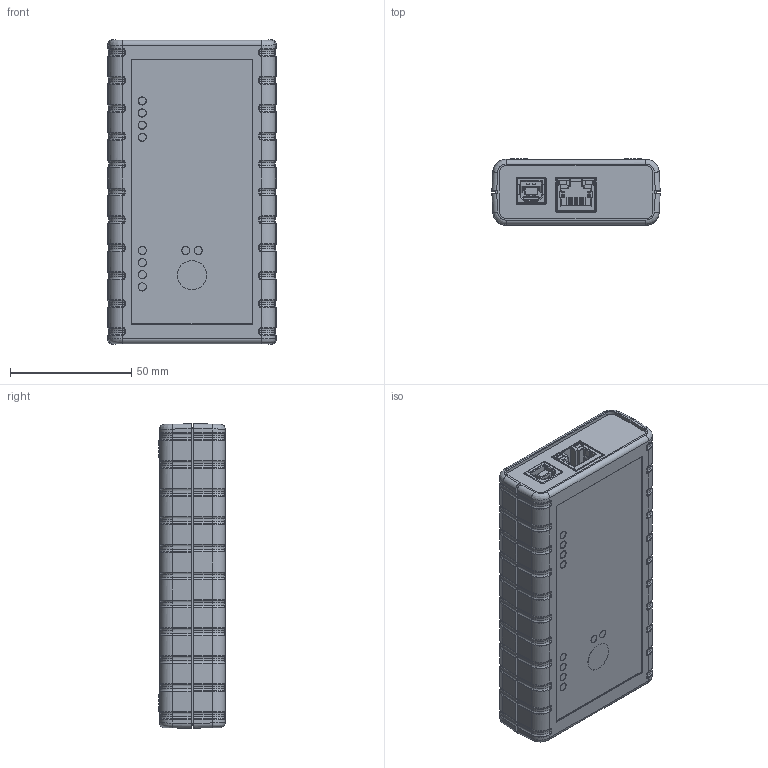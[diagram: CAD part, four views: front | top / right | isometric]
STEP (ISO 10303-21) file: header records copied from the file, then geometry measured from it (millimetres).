
FILE_DESCRIPTION (( 'STEP AP214' ), '1' );
FILE_NAME ('JLinkProPoE_Assembly_WEB.STEP', '2026-02-19T08:56:04', ( '' ), ( '' ), 'SwSTEP 2.0', 'SolidWorks 2020', '' );
FILE_SCHEMA (( 'AUTOMOTIVE_DESIGN' ));
Length unit declared in the file: millimetre
Products named in the file (1): JLinkProPoE_Assembly_WEB
Bounding box: 69.36 x 27.3 x 125.5 mm (x, y, z)
Surface area: 75991.6 mm2 (no closed solid volume)
Topology: 0 solids, 154 shells, 3335 faces, 11516 edges, 8211 vertices
Faces by surface type: plane 1664, cylinder 1041, bspline 515, torus 79, cone 36
Entity records: 197273 total; most frequent: CARTESIAN_POINT 68297, ORIENTED_EDGE 18237, DIRECTION 16886, EDGE_CURVE 11516, VERTEX_POINT 8211, LINE 6806, VECTOR 6806, AXIS2_PLACEMENT_3D 5040
